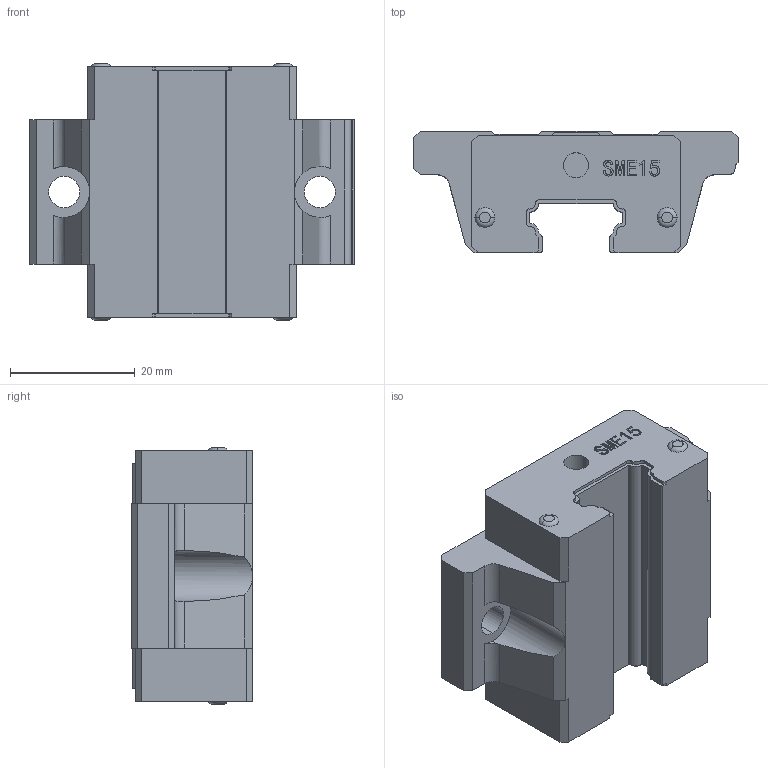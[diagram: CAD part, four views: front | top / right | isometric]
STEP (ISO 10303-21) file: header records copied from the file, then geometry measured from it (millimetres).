
FILE_DESCRIPTION (( 'STEP AP203' ), '1' );
FILE_NAME ('SME15AS.stp', '2019-09-20T01:13:04', ( 'pgos' ), ( '' ), 'SwSTEP 2.0', 'SolidWorks 2014', '' );
FILE_SCHEMA (( 'CONFIG_CONTROL_DESIGN' ));
Length unit declared in the file: millimetre
Products named in the file (1): SME15AS
Bounding box: 52 x 19.5 x 41.1 mm (x, y, z)
Volume: 24990.1 mm3; surface area: 7650.5 mm2
Topology: 1 solids, 1 shells, 235 faces, 685 edges, 465 vertices
Faces by surface type: plane 136, cylinder 73, bspline 18, torus 8
Entity records: 9344 total; most frequent: CARTESIAN_POINT 3157, ORIENTED_EDGE 1370, DIRECTION 1139, EDGE_CURVE 685, VERTEX_POINT 465, VECTOR 445, LINE 445, AXIS2_PLACEMENT_3D 347
